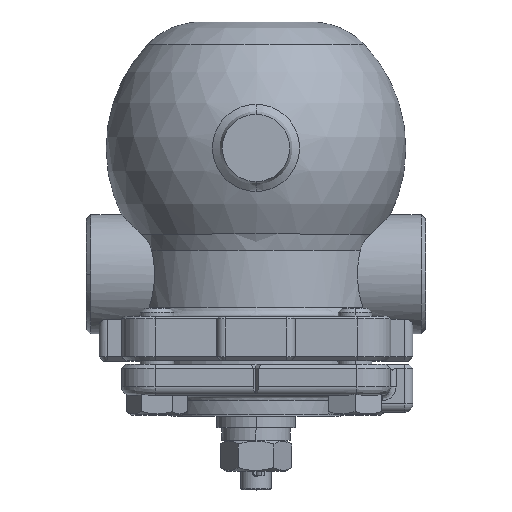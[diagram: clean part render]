
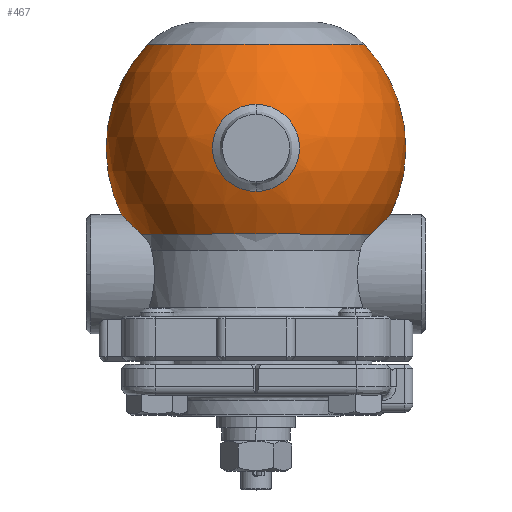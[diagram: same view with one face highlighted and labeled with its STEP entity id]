
A CAD part, top view. The second image highlights one B-rep face of the part: STEP entity #467.
In plain terms, the highlighted spherical face has radius 53.5 mm.
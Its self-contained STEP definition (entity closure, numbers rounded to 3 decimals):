
#467=ADVANCED_FACE('',(#4173,#4174),#4172,.T.);
#4172=SPHERICAL_SURFACE('',#8020,53.5);
#4173=FACE_OUTER_BOUND('',#8021,.T.);
#4174=FACE_BOUND('',#8022,.T.);
#8017=CARTESIAN_POINT('',(0.,67.3,0.));
#8018=DIRECTION('',(0.,-1.,0.));
#8019=DIRECTION('',(1.,0.,-0.009));
#8020=AXIS2_PLACEMENT_3D('',#8017,#8018,#8019);
#8021=EDGE_LOOP('',(#11018,#11019,#11020,#11021,#11022,#11023,#11024,#11025));
#8022=EDGE_LOOP('',(#11026,#11027));
#11018=ORIENTED_EDGE('',*,*,#12635,.T.);
#11019=ORIENTED_EDGE('',*,*,#12607,.F.);
#11020=ORIENTED_EDGE('',*,*,#12636,.T.);
#11021=ORIENTED_EDGE('',*,*,#12637,.T.);
#11022=ORIENTED_EDGE('',*,*,#12638,.F.);
#11023=ORIENTED_EDGE('',*,*,#12639,.T.);
#11024=ORIENTED_EDGE('',*,*,#12640,.T.);
#11025=ORIENTED_EDGE('',*,*,#12641,.T.);
#11026=ORIENTED_EDGE('',*,*,#12642,.T.);
#11027=ORIENTED_EDGE('',*,*,#12643,.T.);
#12607=EDGE_CURVE('',#19310,#19317,#19318,.T.);
#12635=EDGE_CURVE('',#19494,#19317,#19495,.T.);
#12636=EDGE_CURVE('',#19310,#19501,#19502,.T.);
#12637=EDGE_CURVE('',#19501,#19508,#19509,.T.);
#12638=EDGE_CURVE('',#19515,#19508,#19516,.T.);
#12639=EDGE_CURVE('',#19515,#19522,#19523,.T.);
#12640=EDGE_CURVE('',#19522,#19529,#19530,.T.);
#12641=EDGE_CURVE('',#19529,#19494,#19536,.T.);
#12642=EDGE_CURVE('',#19542,#19543,#19544,.T.);
#12643=EDGE_CURVE('',#19543,#19542,#19550,.T.);
#19310=VERTEX_POINT('',#25414);
#19317=VERTEX_POINT('',#25425);
#19318=CIRCLE('',#25429,43.811);
#19494=VERTEX_POINT('',#25546);
#19495=(BOUNDED_CURVE() B_SPLINE_CURVE(3,(#25547,#25548,#25549,#25550,#25551,#25552,#25553,#25554,#25555,#25556,#25557,#25558,#25559,#25560,#25561,#25562,#25563,#25564,#25565,#25566),.UNSPECIFIED.,.F.,.F.) B_SPLINE_CURVE_WITH_KNOTS((4,2,2,2,2,2,2,2,2,4),(0.02,0.022,0.024,0.025,0.027,0.029,0.031,0.034,0.036,0.039),.UNSPECIFIED.) CURVE() GEOMETRIC_REPRESENTATION_ITEM() RATIONAL_B_SPLINE_CURVE((1.,1.,1.,1.,1.,1.,1.,1.,1.,1.,1.,1.,1.,1.,1.,1.,1.,1.,1.,1.)) REPRESENTATION_ITEM('') );
#19501=VERTEX_POINT('',#25567);
#19502=(BOUNDED_CURVE() B_SPLINE_CURVE(3,(#25568,#25569,#25570,#25571,#25572,#25573,#25574,#25575,#25576,#25577,#25578,#25579,#25580,#25581,#25582,#25583),.UNSPECIFIED.,.F.,.F.) B_SPLINE_CURVE_WITH_KNOTS((4,2,2,2,2,2,2,4),(0.,0.005,0.007,0.01,0.012,0.015,0.019,0.019),.UNSPECIFIED.) CURVE() GEOMETRIC_REPRESENTATION_ITEM() RATIONAL_B_SPLINE_CURVE((1.,1.,1.,1.,1.,1.,1.,1.,1.,1.,1.,1.,1.,1.,1.,1.)) REPRESENTATION_ITEM('') );
#19508=VERTEX_POINT('',#25584);
#19509=(BOUNDED_CURVE() B_SPLINE_CURVE(3,(#25585,#25586,#25587,#25588),.UNSPECIFIED.,.F.,.F.) B_SPLINE_CURVE_WITH_KNOTS((4,4),(0.019,0.02),.UNSPECIFIED.) CURVE() GEOMETRIC_REPRESENTATION_ITEM() RATIONAL_B_SPLINE_CURVE((1.,1.,1.,1.)) REPRESENTATION_ITEM('') );
#19515=VERTEX_POINT('',#25589);
#19516=(BOUNDED_CURVE() B_SPLINE_CURVE(2,(#25590,#25591,#25592),.UNSPECIFIED.,.F.,.F.) B_SPLINE_CURVE_WITH_KNOTS((3,3),(0.,0.883),.UNSPECIFIED.) CURVE() GEOMETRIC_REPRESENTATION_ITEM() RATIONAL_B_SPLINE_CURVE((1.,0.8,0.953)) REPRESENTATION_ITEM('') );
#19522=VERTEX_POINT('',#25593);
#19523=CIRCLE('',#25597,38.677);
#19529=VERTEX_POINT('',#25598);
#19530=CIRCLE('',#25602,38.677);
#19536=(BOUNDED_CURVE() B_SPLINE_CURVE(2,(#25603,#25604,#25605),.UNSPECIFIED.,.F.,.F.) B_SPLINE_CURVE_WITH_KNOTS((3,3),(0.,0.883),.UNSPECIFIED.) CURVE() GEOMETRIC_REPRESENTATION_ITEM() RATIONAL_B_SPLINE_CURVE((0.75,0.6,0.715)) REPRESENTATION_ITEM('') );
#19542=VERTEX_POINT('',#25606);
#19543=VERTEX_POINT('',#25607);
#19544=CIRCLE('',#25611,15.547);
#19550=CIRCLE('',#25615,15.547);
#25414=CARTESIAN_POINT('',(40.886,36.594,15.739));
#25425=CARTESIAN_POINT('',(-40.886,36.594,15.739));
#25426=CARTESIAN_POINT('',(0.,36.594,0.));
#25427=DIRECTION('',(0.,-1.,0.));
#25428=DIRECTION('',(-1.,0.,0.));
#25429=AXIS2_PLACEMENT_3D('',#25426,#25427,#25428);
#25546=CARTESIAN_POINT('',(-47.941,43.557,0.421));
#25547=CARTESIAN_POINT('',(-47.941,43.557,0.421));
#25548=CARTESIAN_POINT('',(-47.929,43.544,1.09));
#25549=CARTESIAN_POINT('',(-47.887,43.499,1.753));
#25550=CARTESIAN_POINT('',(-47.731,43.334,3.206));
#25551=CARTESIAN_POINT('',(-47.603,43.198,3.993));
#25552=CARTESIAN_POINT('',(-47.349,42.93,5.158));
#25553=CARTESIAN_POINT('',(-47.253,42.829,5.545));
#25554=CARTESIAN_POINT('',(-47.044,42.61,6.302));
#25555=CARTESIAN_POINT('',(-46.93,42.491,6.673));
#25556=CARTESIAN_POINT('',(-46.561,42.107,7.766));
#25557=CARTESIAN_POINT('',(-46.28,41.817,8.467));
#25558=CARTESIAN_POINT('',(-45.649,41.172,9.82));
#25559=CARTESIAN_POINT('',(-45.298,40.817,10.473));
#25560=CARTESIAN_POINT('',(-44.547,40.068,11.699));
#25561=CARTESIAN_POINT('',(-44.146,39.672,12.277));
#25562=CARTESIAN_POINT('',(-43.296,38.846,13.37));
#25563=CARTESIAN_POINT('',(-42.846,38.415,13.884));
#25564=CARTESIAN_POINT('',(-41.9,37.524,14.856));
#25565=CARTESIAN_POINT('',(-41.402,37.063,15.314));
#25566=CARTESIAN_POINT('',(-40.886,36.594,15.739));
#25567=CARTESIAN_POINT('',(47.945,43.561,0.004));
#25568=CARTESIAN_POINT('',(40.886,36.594,15.739));
#25569=CARTESIAN_POINT('',(41.917,37.53,14.889));
#25570=CARTESIAN_POINT('',(42.86,38.423,13.928));
#25571=CARTESIAN_POINT('',(44.139,39.665,12.287));
#25572=CARTESIAN_POINT('',(44.542,40.063,11.707));
#25573=CARTESIAN_POINT('',(45.299,40.818,10.471));
#25574=CARTESIAN_POINT('',(45.646,41.169,9.826));
#25575=CARTESIAN_POINT('',(46.273,41.81,8.483));
#25576=CARTESIAN_POINT('',(46.554,42.1,7.784));
#25577=CARTESIAN_POINT('',(47.047,42.613,6.327));
#25578=CARTESIAN_POINT('',(47.26,42.836,5.562));
#25579=CARTESIAN_POINT('',(47.768,43.372,3.247));
#25580=CARTESIAN_POINT('',(47.944,43.56,1.658));
#25581=CARTESIAN_POINT('',(47.945,43.561,0.015));
#25582=CARTESIAN_POINT('',(47.945,43.561,0.01));
#25583=CARTESIAN_POINT('',(47.945,43.561,0.004));
#25584=CARTESIAN_POINT('',(47.941,43.557,-0.418));
#25585=CARTESIAN_POINT('',(47.945,43.561,0.004));
#25586=CARTESIAN_POINT('',(47.945,43.561,-0.137));
#25587=CARTESIAN_POINT('',(47.944,43.56,-0.278));
#25588=CARTESIAN_POINT('',(47.941,43.557,-0.418));
#25589=CARTESIAN_POINT('',(38.676,104.264,-0.338));
#25590=CARTESIAN_POINT('',(38.676,104.264,-0.338));
#25591=CARTESIAN_POINT('',(64.58,77.157,-0.564));
#25592=CARTESIAN_POINT('',(47.941,43.557,-0.418));
#25593=CARTESIAN_POINT('',(38.677,104.264,0.));
#25594=CARTESIAN_POINT('',(0.,104.264,0.));
#25595=DIRECTION('',(0.,-1.,0.));
#25596=DIRECTION('',(1.,0.,0.));
#25597=AXIS2_PLACEMENT_3D('',#25594,#25595,#25596);
#25598=CARTESIAN_POINT('',(-38.676,104.264,0.338));
#25599=CARTESIAN_POINT('',(0.,104.264,0.));
#25600=DIRECTION('',(0.,-1.,0.));
#25601=DIRECTION('',(1.,0.,0.));
#25602=AXIS2_PLACEMENT_3D('',#25599,#25600,#25601);
#25603=CARTESIAN_POINT('',(-38.676,104.264,0.338));
#25604=CARTESIAN_POINT('',(-64.58,77.157,0.564));
#25605=CARTESIAN_POINT('',(-47.941,43.557,0.418));
#25606=CARTESIAN_POINT('',(0.,51.753,51.191));
#25607=CARTESIAN_POINT('',(0.,82.847,51.191));
#25608=CARTESIAN_POINT('',(0.,67.3,51.191));
#25609=DIRECTION('',(0.,0.,-1.));
#25610=DIRECTION('',(0.,-1.,0.));
#25611=AXIS2_PLACEMENT_3D('',#25608,#25609,#25610);
#25612=CARTESIAN_POINT('',(0.,67.3,51.191));
#25613=DIRECTION('',(0.,0.,-1.));
#25614=DIRECTION('',(0.,-1.,0.));
#25615=AXIS2_PLACEMENT_3D('',#25612,#25613,#25614);
